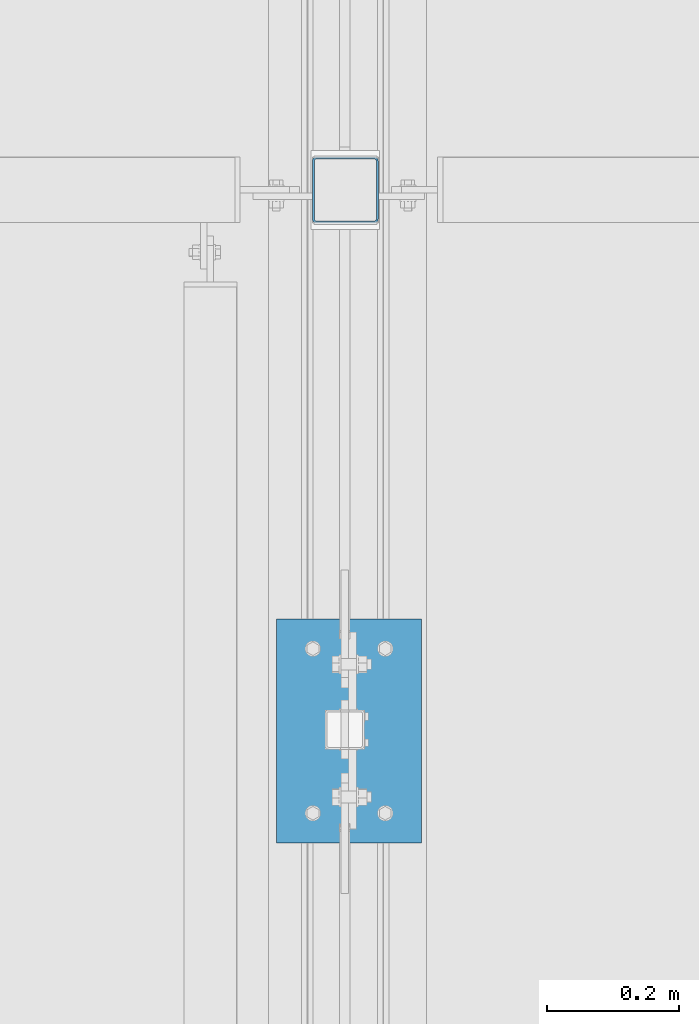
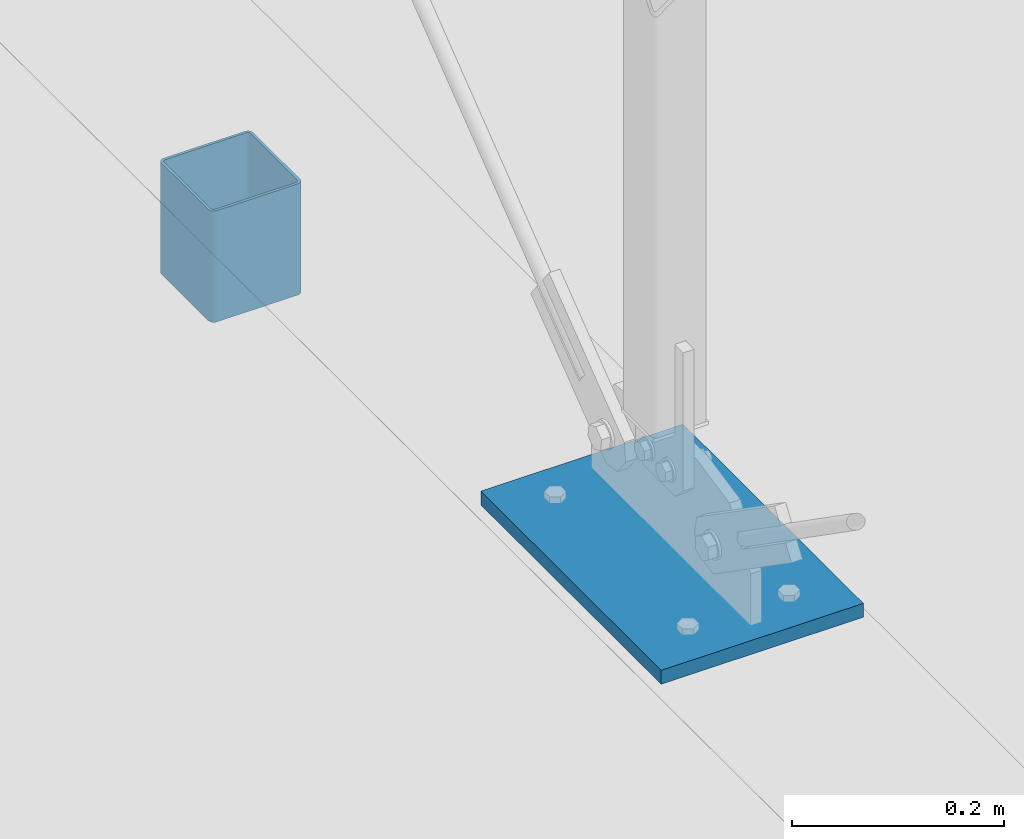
# One storey, part 68 of 271: 3 beams, 3 elements without a shape of their own.
"""IFC2X3 building model written with IfcOpenShell, lengths in millimetres."""

from ifc_helpers import new_model, si_unit, frame, origin_with_axes, origin_2d_with_axis, place, context, subcontext, project, spatial, rectangle, hollow_rectangle, extrude, clip, halfspace, material, type_object, element, aggregate, save


model = new_model("IFC2X3")

# Units and contexts
model_context = context("Model", 3, precision=1e-05, world=origin_with_axes())
body_context = subcontext(model_context, "Body", "Model", "MODEL_VIEW")
ifc_project = project(units=[si_unit("LENGTHUNIT", "METRE", prefix="MILLI"), si_unit("AREAUNIT", "SQUARE_METRE"), si_unit("VOLUMEUNIT", "CUBIC_METRE"), si_unit("MASSUNIT", "GRAM", prefix="KILO"), si_unit("TIMEUNIT", "SECOND"), si_unit("PLANEANGLEUNIT", "RADIAN"), si_unit("SOLIDANGLEUNIT", "STERADIAN"), si_unit("THERMODYNAMICTEMPERATUREUNIT", "DEGREE_CELSIUS"), si_unit("LUMINOUSINTENSITYUNIT", "LUMEN")], contexts=[model_context])

# Site, building, storey
site_placement = place(None, origin_with_axes())
site = spatial("IfcSite", under=ifc_project, at=site_placement, Name="Undefined", CompositionType="ELEMENT")
building_placement = place(site_placement, origin_with_axes())
building = spatial("IfcBuilding", under=site, at=building_placement, Name="Undefined", CompositionType="ELEMENT")
storey_placement = place(building_placement, origin_with_axes())
storey = spatial("IfcBuildingStorey", under=building, at=storey_placement, Name="Undefined", CompositionType="ELEMENT", Elevation=0.0)

# Assembly, beam
assembly_1_placement = place(storey_placement, origin_with_axes())
assembly_1 = element("IfcElementAssembly", 1, at=assembly_1_placement, inside=storey, Name="BELKA", AssemblyPlace="NOTDEFINED", PredefinedType="RIGID_FRAME")
ifc_material = material(Name="STEEL/S355JR")
beam_type_1 = type_object("IfcBeamType", Name="PL340*16", PredefinedType="NOTDEFINED")
beam_1_placement = place(assembly_1_placement, frame((6244.0, 1977.0, -8.0), z_axis=(0.0, -1.0, 0.0), x_axis=(1.0, 0.0, 0.0)))
beam_1 = element("IfcBeam", 2, at=beam_1_placement, type_object=beam_type_1, material=ifc_material, Name="BELKA", ObjectType="PL340*16", context=body_context, shape_type="SweptSolid", body=[
    extrude(rectangle(XDim=16.0, YDim=340.0, at=origin_2d_with_axis()), frame((220.0, 0.0, 0.0), z_axis=(-1.0, 0.0, 1.38777878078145e-17), x_axis=(0.0, -1.0, 0.0)), (0.0, 0.0, 1.0), 220.0),
])
aggregate(assembly_1, [beam_1])

assembly_2_placement = place(storey_placement, origin_with_axes())
assembly_2 = element("IfcElementAssembly", 3, at=assembly_2_placement, inside=storey, AssemblyPlace="NOTDEFINED", PredefinedType="RIGID_FRAME")
beam_type_2 = type_object("IfcBeamType", Name="SHS100*3", PredefinedType="NOTDEFINED")
beam_2_placement = place(assembly_2_placement, frame((6348.37568736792, 2798.92439872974, -195.650000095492), z_axis=(0.0, 1.0, 0.0), x_axis=(0.0, 0.0, 1.0)))
beam_2 = element("IfcBeam", 4, at=beam_2_placement, type_object=beam_type_2, material=ifc_material, Name="TĘŻNIK", ObjectType="SHS100*3", context=body_context, shape_type="Clipping", body=[
    clip(extrude(hollow_rectangle(XDim=100.0, YDim=100.0, WallThickness=3.0, InnerFilletRadius=3.0, OuterFilletRadius=6.0, at=origin_2d_with_axis()), frame((132.0, 0.0, 0.0), z_axis=(-1.0, 0.0, 1.38777878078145e-17), x_axis=(0.0, -1.0, 0.0)), (0.0, 0.0, 1.0), 132.0), halfspace(frame((4.0, 0.0, -50.0), z_axis=(1.0, 0.0, 0.0), x_axis=(0.0, -1.0, 0.0)), True)),
])
aggregate(assembly_2, [beam_2])

assembly_3_placement = place(storey_placement, origin_with_axes())
assembly_3 = element("IfcElementAssembly", 5, at=assembly_3_placement, inside=storey, AssemblyPlace="NOTDEFINED", PredefinedType="RIGID_FRAME")
beam_3_placement = place(assembly_3_placement, frame((6348.37568736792, 2798.92439872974, -195.650000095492), z_axis=(0.0, 1.0, 0.0), x_axis=(0.0, 0.0, 1.0)))
beam_3 = element("IfcBeam", 6, at=beam_3_placement, type_object=beam_type_2, material=ifc_material, Name="TĘŻNIK", ObjectType="SHS100*3", context=body_context, shape_type="Clipping", body=[
    clip(extrude(hollow_rectangle(XDim=100.0, YDim=100.0, WallThickness=3.0, InnerFilletRadius=3.0, OuterFilletRadius=6.0, at=origin_2d_with_axis()), frame((132.0, 0.0, 0.0), z_axis=(-1.0, 0.0, 1.38777878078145e-17), x_axis=(0.0, -1.0, 0.0)), (0.0, 0.0, 1.0), 132.0), halfspace(frame((4.0, 0.0, -50.0), z_axis=(1.0, 0.0, 0.0), x_axis=(0.0, -1.0, 0.0)), True)),
])
aggregate(assembly_3, [beam_3])

save(model, "model.ifc")
